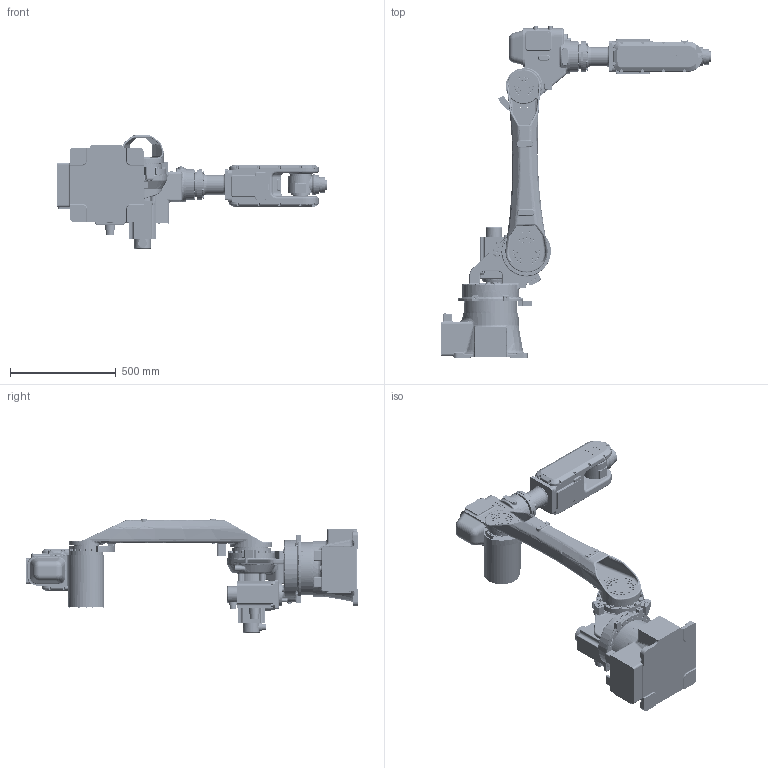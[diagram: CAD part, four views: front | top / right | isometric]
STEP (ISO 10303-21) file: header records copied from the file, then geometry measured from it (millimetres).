
FILE_DESCRIPTION (( 'STEP AP203' ), '1' );
FILE_NAME ('ER20仿真模型.STEP', '2017-05-08T03:01:19', ( '微软用户' ), ( '微软中国' ), 'SwSTEP 2.0', 'SolidWorks 2015', '' );
FILE_SCHEMA (( 'CONFIG_CONTROL_DESIGN' ));
Length unit declared in the file: millimetre
Products named in the file (8): ER20溘淩耀倰; ER20菁釱; ER20湮旋; ER20苤旋; ER20苤旋裝; ER20蛌釱; ER20忒勂; ER20藺傷楊擘
Assembly tree (7 placements, depth 2):
  ER20溘淩耀倰
    ER20菁釱
    ER20湮旋
    ER20苤旋
    ER20苤旋裝
    ER20蛌釱
    ER20忒勂
    ER20藺傷楊擘
Bounding box: 1276.03 x 1568.89 x 537.9 mm (x, y, z)
Volume: 53993214.9 mm3; surface area: 3398824.4 mm2
Topology: 6 solids, 7 shells, 11973 faces, 30480 edges, 18595 vertices
Faces by surface type: cylinder 4920, cone 3671, plane 2535, bspline 423, torus 373, sphere 51
Entity records: 442695 total; most frequent: CARTESIAN_POINT 154067, DIRECTION 62372, ORIENTED_EDGE 60196, EDGE_CURVE 30099, AXIS2_PLACEMENT_3D 24646, VERTEX_POINT 18588, CIRCLE 13085, VECTOR 13080
